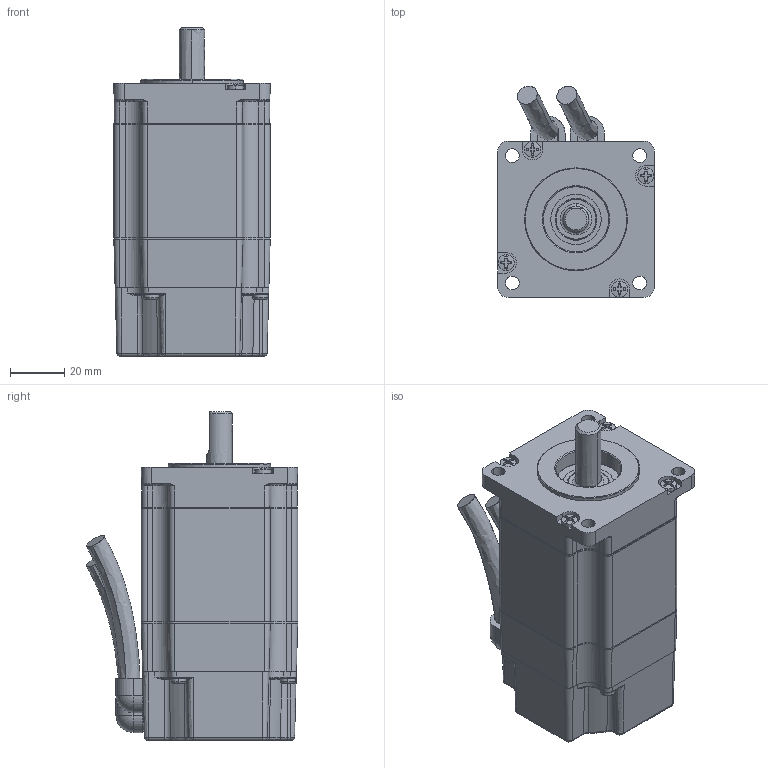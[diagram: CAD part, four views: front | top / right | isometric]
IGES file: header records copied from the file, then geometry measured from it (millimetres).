
Start section:  PTC IGES file: vlm21f.igs
Global section: file name: vlm21f.igs; native system: Pro/ENGINEER by Parametric Technology Corporation; preprocessor: 2006510; author: Ray.Dobbins; organization: Unknown; date: 20110726.090453; units: inch
Bounding box: 57.91 x 78.26 x 121.55 mm (x, y, z)
Surface area: 106671.7 mm2 (no closed solid volume)
Topology: 0 solids, 0 shells, 1805 faces, 9574 edges, 9564 vertices
Faces by surface type: revolution 1055, bspline 750
